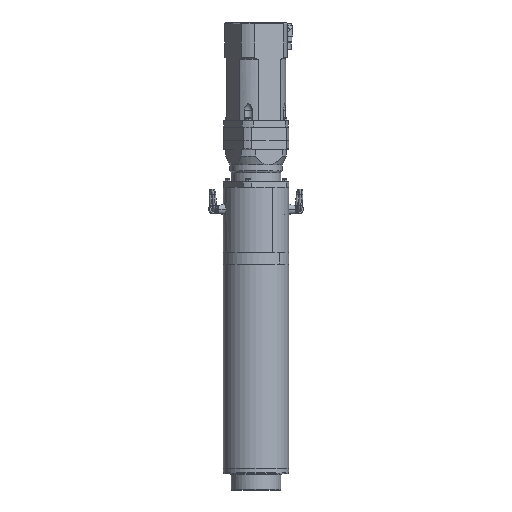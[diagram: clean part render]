
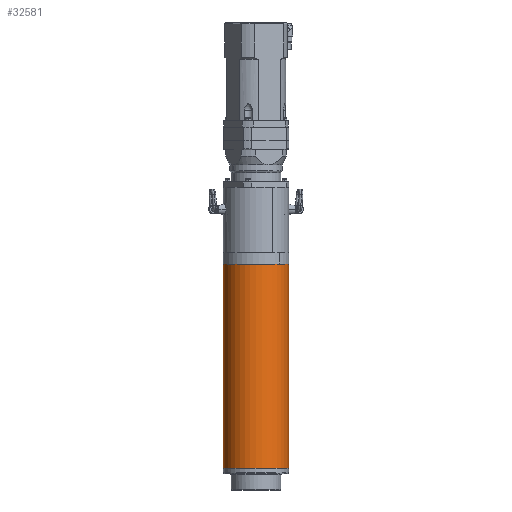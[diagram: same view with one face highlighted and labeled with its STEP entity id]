
A CAD part, front view. The second image highlights one B-rep face of the part: STEP entity #32581.
In plain terms, the highlighted cylindrical face has radius 120 mm (diameter 240 mm), a partial arc.
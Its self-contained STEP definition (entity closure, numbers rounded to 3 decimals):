
#791 = ORIENTED_EDGE ( 'NONE', *, *, #38305, .T. ) ;
#1639 = CARTESIAN_POINT ( 'NONE',  ( 0., 0., 20. ) ) ;
#1689 = CARTESIAN_POINT ( 'NONE',  ( 120., 0., 764. ) ) ;
#3070 = AXIS2_PLACEMENT_3D ( 'NONE', #25336, #7100, #16453 ) ;
#3485 = ORIENTED_EDGE ( 'NONE', *, *, #38573, .T. ) ;
#4873 = EDGE_CURVE ( 'NONE', #12147, #27322, #29841, .T. ) ;
#6024 = VECTOR ( 'NONE', #17535, 1000. ) ;
#7100 = DIRECTION ( 'NONE',  ( 0., 0., -1. ) ) ;
#8870 = AXIS2_PLACEMENT_3D ( 'NONE', #1639, #10775, #32108 ) ;
#10775 = DIRECTION ( 'NONE',  ( 0., 0., -1. ) ) ;
#11107 = AXIS2_PLACEMENT_3D ( 'NONE', #30077, #20470, #23535 ) ;
#11874 = CARTESIAN_POINT ( 'NONE',  ( -120., 0., 764. ) ) ;
#12147 = VERTEX_POINT ( 'NONE', #22845 ) ;
#13076 = VERTEX_POINT ( 'NONE', #11874 ) ;
#14484 = CARTESIAN_POINT ( 'NONE',  ( 120., 0., 0. ) ) ;
#16230 = LINE ( 'NONE', #22781, #22405 ) ;
#16453 = DIRECTION ( 'NONE',  ( -1., 0., 0. ) ) ;
#17535 = DIRECTION ( 'NONE',  ( 0., 0., -1. ) ) ;
#17592 = CYLINDRICAL_SURFACE ( 'NONE', #11107, 120. ) ;
#19498 = FACE_OUTER_BOUND ( 'NONE', #38204, .T. ) ;
#19994 = DIRECTION ( 'NONE',  ( 0., 0., -1. ) ) ;
#20470 = DIRECTION ( 'NONE',  ( 0., 0., -1. ) ) ;
#22024 = CARTESIAN_POINT ( 'NONE',  ( -120., 0., 20. ) ) ;
#22405 = VECTOR ( 'NONE', #19994, 1000. ) ;
#22781 = CARTESIAN_POINT ( 'NONE',  ( -120., 0., 0. ) ) ;
#22845 = CARTESIAN_POINT ( 'NONE',  ( 120., 0., 20. ) ) ;
#23535 = DIRECTION ( 'NONE',  ( -1., 0., 0. ) ) ;
#25336 = CARTESIAN_POINT ( 'NONE',  ( 0., 0., 764. ) ) ;
#27322 = VERTEX_POINT ( 'NONE', #22024 ) ;
#27481 = LINE ( 'NONE', #14484, #6024 ) ;
#29841 = CIRCLE ( 'NONE', #8870, 120. ) ;
#30077 = CARTESIAN_POINT ( 'NONE',  ( 0., 0., 0. ) ) ;
#30641 = ORIENTED_EDGE ( 'NONE', *, *, #33933, .F. ) ;
#32108 = DIRECTION ( 'NONE',  ( -1., 0., 0. ) ) ;
#32581 = ADVANCED_FACE ( 'NONE', ( #19498 ), #17592, .T. ) ;
#33933 = EDGE_CURVE ( 'NONE', #38326, #12147, #27481, .T. ) ;
#34396 = CIRCLE ( 'NONE', #3070, 120. ) ;
#36069 = ORIENTED_EDGE ( 'NONE', *, *, #4873, .F. ) ;
#38204 = EDGE_LOOP ( 'NONE', ( #30641, #3485, #791, #36069 ) ) ;
#38305 = EDGE_CURVE ( 'NONE', #13076, #27322, #16230, .T. ) ;
#38326 = VERTEX_POINT ( 'NONE', #1689 ) ;
#38573 = EDGE_CURVE ( 'NONE', #38326, #13076, #34396, .T. ) ;
